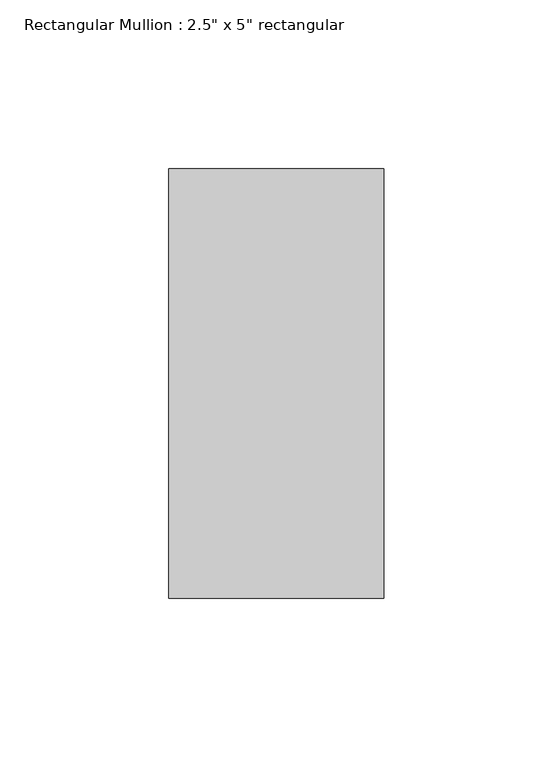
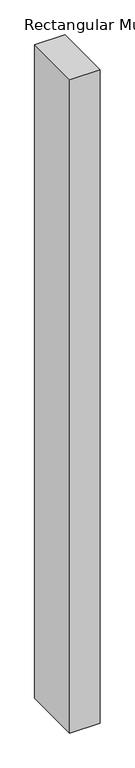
"""IFC4 building model written with IfcOpenShell, lengths in millimetres: member geometry."""

from ifc_helpers import new_model, si_unit, frame, origin, place, context, project, spatial, polyline, outline, extrude, source, transform, mapped, element, save


def member_19b6149e(model_context):
    return source(origin(), model_context, "Body", "SweptSolid", [
        extrude(outline(polyline([(0.0, 63.5), (0.0, -63.5), (-63.5, -63.5), (-63.5, 63.5), (0.0, 63.5)])), frame((0.0, 0.0, -1446.2125), z_axis=(0.0, 0.0, 1.0), x_axis=(1.0, 0.0, 0.0)), (0.0, 0.0, 1.0), 1446.2125),
    ])


if __name__ == "__main__":
    model = new_model("IFC4")
    model_context = context("Model", 3, world=origin())
    ifc_project = project(units=[si_unit("LENGTHUNIT", "METRE", prefix="MILLI")], contexts=[model_context])
    site = spatial("IfcSite", under=ifc_project)
    building = spatial("IfcBuilding", under=site)
    placement = place(None, origin())
    member_shape = member_19b6149e(model_context)
    element("IfcMember", 1, ObjectType="Rectangular Mullion : 2.5\" x 5\" rectangular", at=placement, inside=building, context=model_context, shape_type="MappedRepresentation", body=[
        mapped(member_shape, transform((0.0, 0.0, 0.0), x_axis=(1.0, 0.0, 0.0), y_axis=(0.0, 1.0, 0.0), z_axis=(0.0, 0.0, 1.0))),
    ])
    save(model, "model.ifc")
